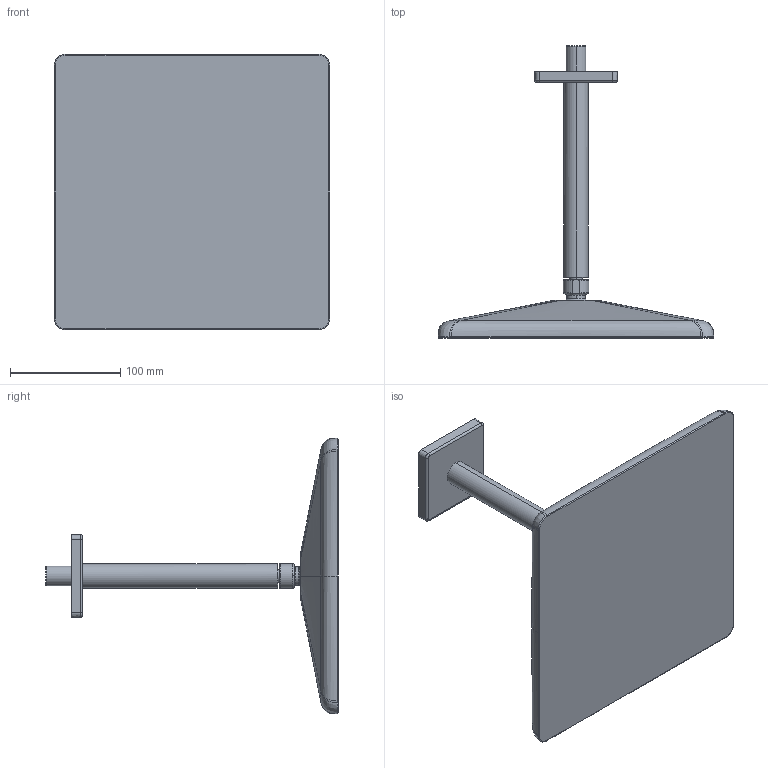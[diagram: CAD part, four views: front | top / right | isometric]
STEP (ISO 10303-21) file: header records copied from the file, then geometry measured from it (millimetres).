
FILE_DESCRIPTION (( 'STEP AP203' ), '1' );
FILE_NAME ('47270340(2024).STEP', '2024-01-12T08:36:40', ( '' ), ( '' ), 'SwSTEP 2.0', 'SolidWorks 2016', '' );
FILE_SCHEMA (( 'CONFIG_CONTROL_DESIGN' ));
Length unit declared in the file: millimetre
Products named in the file (1): 47270340(2024)
Bounding box: 249.91 x 264.73 x 249.86 mm (x, y, z)
Volume: 1458924.4 mm3; surface area: 164196.6 mm2
Topology: 1 solids, 1 shells, 111 faces, 262 edges, 160 vertices
Faces by surface type: bspline 69, cylinder 18, plane 14, torus 6, cone 4
Entity records: 10047 total; most frequent: CARTESIAN_POINT 7858, ORIENTED_EDGE 524, DIRECTION 318, EDGE_CURVE 262, VERTEX_POINT 160, AXIS2_PLACEMENT_3D 130, EDGE_LOOP 118, FACE_OUTER_BOUND 111
